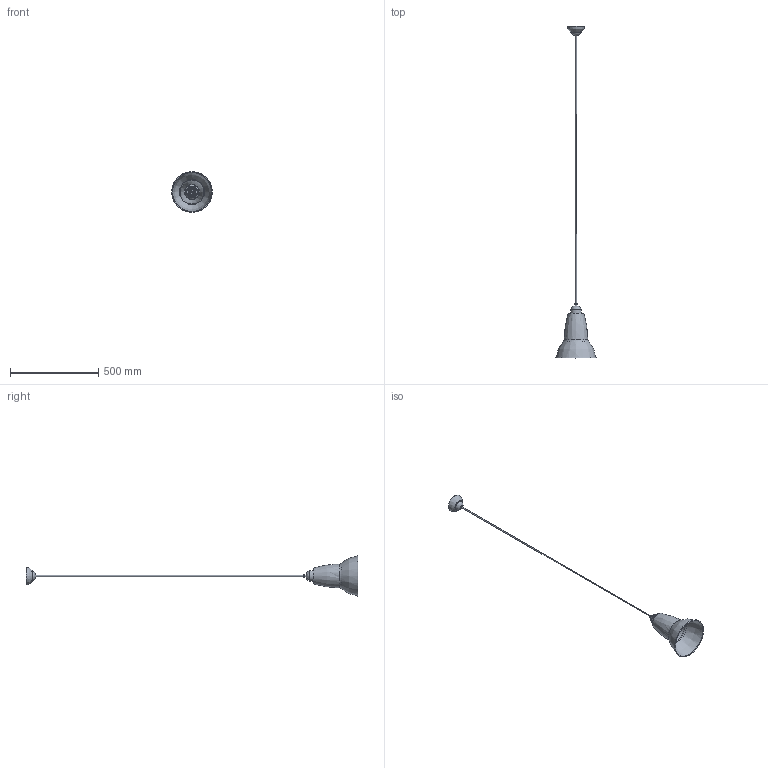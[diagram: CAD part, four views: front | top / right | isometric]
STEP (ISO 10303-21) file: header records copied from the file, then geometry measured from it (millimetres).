
FILE_DESCRIPTION(/* description */ (''),/* implementation_level */ '2;1');
FILE_NAME(/* name */ 'C:/Users/tfalope/Desktop/tech file/Original_1227_Midi_Pendant_STEP_01 v2.step',/* time_stamp */ '2021-10-11T15:33:23+01:00',/* author */ (''),/* organization */ (''),/* preprocessor_version */ 'ST-DEVELOPER v18.1',/* originating_system */ 'Autodesk Translation Framework v10.10.0.1391',/* authorisation */ '');
FILE_SCHEMA (('AUTOMOTIVE_DESIGN { 1 0 10303 214 3 1 1 }'));
Length unit declared in the file: millimetre
Products named in the file (16): Original_1227_Midi_Pendant_STEP_01; 100108-1227 Midi XL - Rev A - 1 v5; Cap and Rose v1; Duo_Maxi_Pendant_Lampholder_Harness_Full_Assembly_V1; Duo_Maxi_Pendant_Lampholder_Harness; pan head cross recess screw_bsi_ISO 7045 - M3 x 5 - Z --- 5N; Lampholder_V1; P001-C002-Plastic Grommet; Allthread_M10x57; Duo_Maxi_Pendant_Cap_V1; Duo_Pendant_Ceiling Rose_V1; Duo_Ceiling_Rose_V1; Original1227_Top Cap Nut; CFL BULB; Component23; Component16
Assembly tree (16 placements, depth 5):
  Original_1227_Midi_Pendant_STEP_01
    100108-1227 Midi XL - Rev A - 1 v5
      Cap and Rose v1
        Duo_Maxi_Pendant_Lampholder_Harness_Full_Assembly_V1
          Duo_Maxi_Pendant_Lampholder_Harness
          pan head cross recess screw_bsi_ISO 7045 - M3 x 5 - Z --- 5N
          Lampholder_V1
          P001-C002-Plastic Grommet
          Allthread_M10x57
        Duo_Maxi_Pendant_Cap_V1
        Original1227_Top Cap Nut
        Duo_Pendant_Ceiling Rose_V1
          Duo_Ceiling_Rose_V1
          Original1227_Top Cap Nut
        CFL BULB
        Component23
    Component16
Bounding box: 229.95 x 1882.64 x 229.95 mm (x, y, z)
Volume: 285295.6 mm3; surface area: 381038.7 mm2
Topology: 11 solids, 12 shells, 181 faces, 411 edges, 260 vertices
Faces by surface type: cylinder 60, plane 57, bspline 27, torus 18, cone 17, sphere 2
Full cylindrical faces by diameter (mm): 3 x3, 3.3 x2, 5 x1, 5.6 x1, 6 x2, 7.5 x1, 8 x1, 8.4 x1, 8.5 x1, 9 x1, 9.6 x2, 10 x2, 12.8 x1, 13.335 x2, 15 x1, 25 x1, 28.575 x1, 35 x1, 37.5 x1, 38.1 x1, 39 x1, 52 x1, 54 x1, 58 x1, 60 x1
Entity records: 18484 total; most frequent: CARTESIAN_POINT 13936, DIRECTION 963, ORIENTED_EDGE 812, AXIS2_PLACEMENT_3D 429, EDGE_CURVE 408, VERTEX_POINT 260, CIRCLE 237, EDGE_LOOP 224
